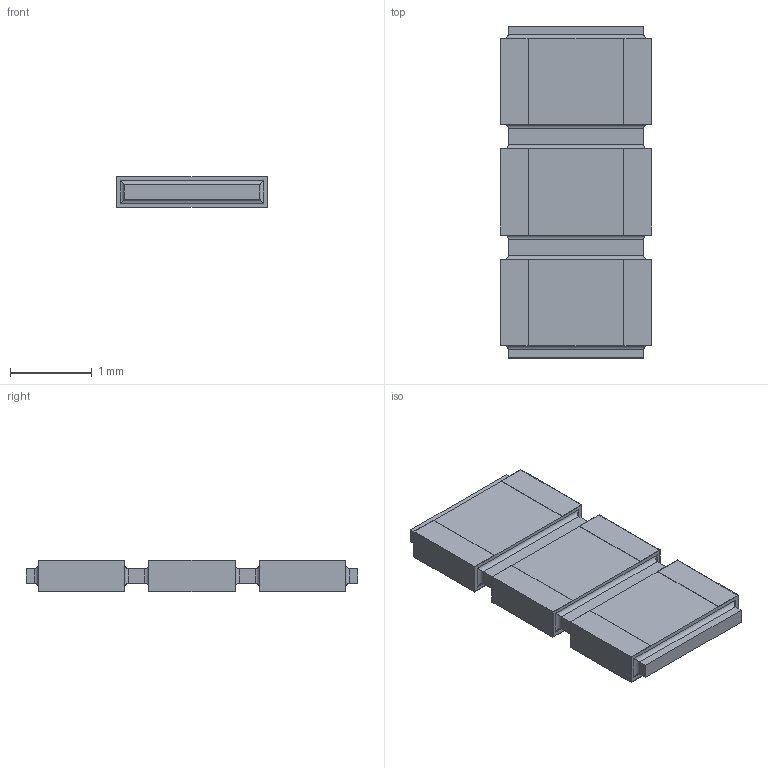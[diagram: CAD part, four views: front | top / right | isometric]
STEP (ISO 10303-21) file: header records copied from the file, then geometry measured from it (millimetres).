
FILE_DESCRIPTION(/* description */ (''),/* implementation_level */ '2;1');
FILE_NAME(/* name */ 'S:\DOCUMENT\AUTOCAD\3D_Modèles\10_3D-pour-VISHAY-COM\PRA\PRAHR135I3_B.stp',/* time_stamp */ '2018-02-02T10:49:34+01:00',/* author */ ('dparmentier'),/* organization */ ('unknown'),/* preprocessor_version */ 'ST-DEVELOPER v17',/* originating_system */ 'Autodesk Inventor 2018',/* authorisation */ '');
FILE_SCHEMA (('AUTOMOTIVE_DESIGN { 1 0 10303 214 3 1 1 }'));
Length unit declared in the file: millimetre
Products named in the file (1): PRAHR135I3_B
Bounding box: 1.85 x 4.05 x 0.38 mm (x, y, z)
Volume: 2.5 mm3; surface area: 33 mm2
Topology: 7 solids, 7 shells, 120 faces, 276 edges, 176 vertices
Faces by surface type: plane 96, cylinder 24
Entity records: 3359 total; most frequent: CARTESIAN_POINT 573, ORIENTED_EDGE 552, DIRECTION 542, EDGE_CURVE 276, LINE 252, VECTOR 252, VERTEX_POINT 176, AXIS2_PLACEMENT_3D 145
